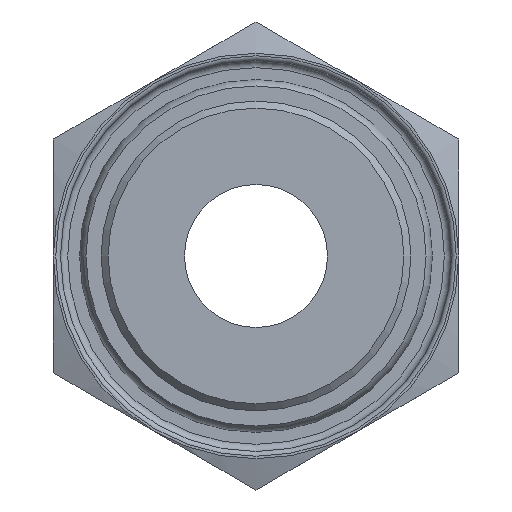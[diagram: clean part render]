
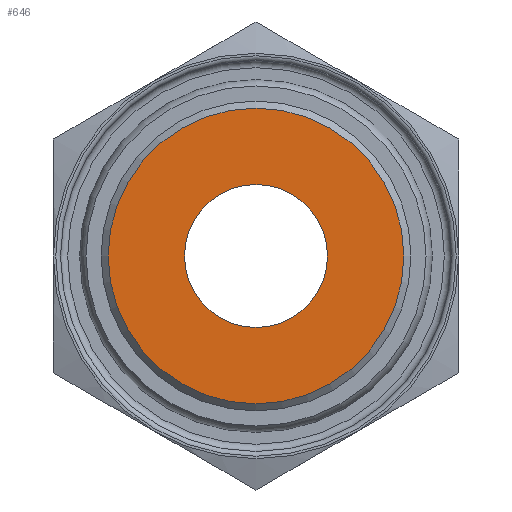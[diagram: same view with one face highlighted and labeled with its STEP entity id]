
A CAD part, front view. The second image highlights one B-rep face of the part: STEP entity #646.
In plain terms, the highlighted planar face has unit normal (0, -1, 0).
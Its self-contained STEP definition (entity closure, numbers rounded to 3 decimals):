
#72=FACE_BOUND('',#166,.T.);
#83=PLANE('',#794);
#116=FACE_OUTER_BOUND('',#165,.T.);
#165=EDGE_LOOP('',(#501));
#166=EDGE_LOOP('',(#502));
#258=CIRCLE('',#778,3.);
#266=CIRCLE('',#789,6.2);
#305=VERTEX_POINT('',#1123);
#313=VERTEX_POINT('',#1144);
#369=EDGE_CURVE('',#305,#305,#258,.T.);
#378=EDGE_CURVE('',#313,#313,#266,.T.);
#501=ORIENTED_EDGE('',*,*,#378,.F.);
#502=ORIENTED_EDGE('',*,*,#369,.T.);
#646=ADVANCED_FACE('',(#116,#72),#83,.T.);
#778=AXIS2_PLACEMENT_3D('',#1125,#914,#915);
#789=AXIS2_PLACEMENT_3D('',#1145,#937,#938);
#794=AXIS2_PLACEMENT_3D('',#1155,#949,#950);
#914=DIRECTION('center_axis',(0.,1.,0.));
#915=DIRECTION('ref_axis',(1.,0.,0.));
#937=DIRECTION('center_axis',(0.,1.,0.));
#938=DIRECTION('ref_axis',(-1.,0.,0.));
#949=DIRECTION('center_axis',(0.,-1.,0.));
#950=DIRECTION('ref_axis',(0.,0.,-1.));
#1123=CARTESIAN_POINT('',(-3.,-7.,0.));
#1125=CARTESIAN_POINT('Origin',(0.,-7.,0.));
#1144=CARTESIAN_POINT('',(6.2,-7.,0.));
#1145=CARTESIAN_POINT('Origin',(0.,-7.,0.));
#1155=CARTESIAN_POINT('Origin',(0.,-7.,0.));
